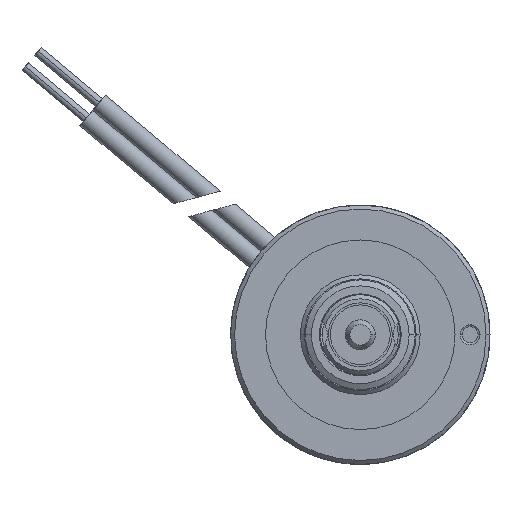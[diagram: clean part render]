
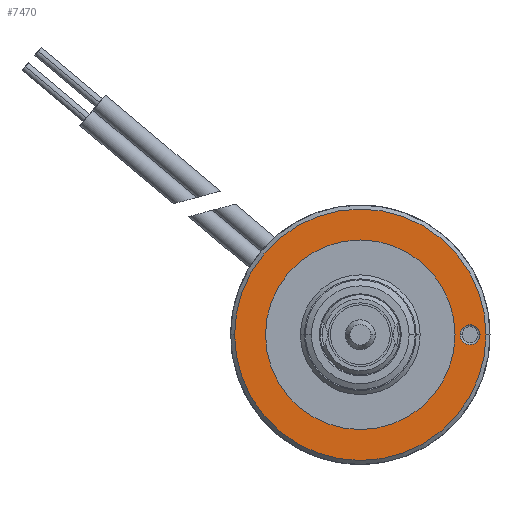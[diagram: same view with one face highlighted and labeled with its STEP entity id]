
A CAD part, left-side view. The second image highlights one B-rep face of the part: STEP entity #7470.
In plain terms, the highlighted planar face has unit normal (-1, 0, 0).
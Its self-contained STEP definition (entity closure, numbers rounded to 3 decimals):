
#3024=CARTESIAN_POINT('',(0.,0.,0.));
#3025=DIRECTION('',(-1.,0.,0.));
#3026=DIRECTION('',(0.,1.,0.));
#3027=AXIS2_PLACEMENT_3D('',#3024,#3025,#3026);
#3032=CARTESIAN_POINT('',(0.,0.,0.));
#3033=DIRECTION('',(-1.,0.,0.));
#3034=DIRECTION('',(0.,-1.,0.));
#3035=AXIS2_PLACEMENT_3D('',#3032,#3033,#3034);
#3040=CARTESIAN_POINT('',(0.,-5.5,0.));
#3041=DIRECTION('',(1.,0.,0.));
#3042=DIRECTION('',(0.,1.,0.));
#3043=AXIS2_PLACEMENT_3D('',#3040,#3041,#3042);
#3048=CARTESIAN_POINT('',(0.,-5.5,0.));
#3049=DIRECTION('',(1.,0.,0.));
#3050=DIRECTION('',(0.,-1.,0.));
#3051=AXIS2_PLACEMENT_3D('',#3048,#3049,#3050);
#3063=CARTESIAN_POINT('',(0.,0.,0.));
#3064=DIRECTION('',(-1.,0.,0.));
#3065=DIRECTION('',(0.,1.,0.));
#3066=AXIS2_PLACEMENT_3D('',#3063,#3064,#3065);
#3078=CARTESIAN_POINT('',(0.,0.,0.));
#3079=DIRECTION('',(1.,0.,0.));
#3080=DIRECTION('',(0.,1.,0.));
#3081=AXIS2_PLACEMENT_3D('',#3078,#3079,#3080);
#5666=CARTESIAN_POINT('',(0.,4.75,0.));
#5668=VERTEX_POINT('',#5666);
#5670=CARTESIAN_POINT('',(0.,-4.75,0.));
#5672=VERTEX_POINT('',#5670);
#5682=CARTESIAN_POINT('',(0.,-5.,0.));
#5683=CARTESIAN_POINT('',(0.,-6.,0.));
#5684=VERTEX_POINT('',#5682);
#5685=VERTEX_POINT('',#5683);
#5710=CARTESIAN_POINT('',(0.,6.3,0.));
#5711=CARTESIAN_POINT('',(0.,-6.3,0.));
#5712=VERTEX_POINT('',#5710);
#5713=VERTEX_POINT('',#5711);
#7448=CARTESIAN_POINT('',(0.,0.,0.));
#7449=DIRECTION('',(-1.,0.,0.));
#7450=DIRECTION('',(0.,1.,0.));
#7451=AXIS2_PLACEMENT_3D('',#7448,#7449,#7450);
#7452=PLANE('',#7451);
#7454=ORIENTED_EDGE('',*,*,#7453,.F.);
#7455=ORIENTED_EDGE('',*,*,#7438,.F.);
#7456=EDGE_LOOP('',(#7454,#7455));
#7457=FACE_OUTER_BOUND('',#7456,.F.);
#7459=ORIENTED_EDGE('',*,*,#7458,.T.);
#7461=ORIENTED_EDGE('',*,*,#7460,.F.);
#7462=EDGE_LOOP('',(#7459,#7461));
#7463=FACE_BOUND('',#7462,.F.);
#7465=ORIENTED_EDGE('',*,*,#7464,.F.);
#7467=ORIENTED_EDGE('',*,*,#7466,.F.);
#7468=EDGE_LOOP('',(#7465,#7467));
#7469=FACE_BOUND('',#7468,.F.);
#7470=ADVANCED_FACE('',(#7457,#7463,#7469),#7452,.T.);
#3028=CIRCLE('',#3027,6.3);
#3036=CIRCLE('',#3035,6.3);
#3044=CIRCLE('',#3043,0.5);
#3052=CIRCLE('',#3051,0.5);
#3067=CIRCLE('',#3066,4.75);
#3082=CIRCLE('',#3081,4.75);
#7438=EDGE_CURVE('',#5713,#5712,#3036,.T.);
#7453=EDGE_CURVE('',#5712,#5713,#3028,.T.);
#7458=EDGE_CURVE('',#5668,#5672,#3067,.T.);
#7460=EDGE_CURVE('',#5668,#5672,#3082,.T.);
#7464=EDGE_CURVE('',#5684,#5685,#3044,.T.);
#7466=EDGE_CURVE('',#5685,#5684,#3052,.T.);
